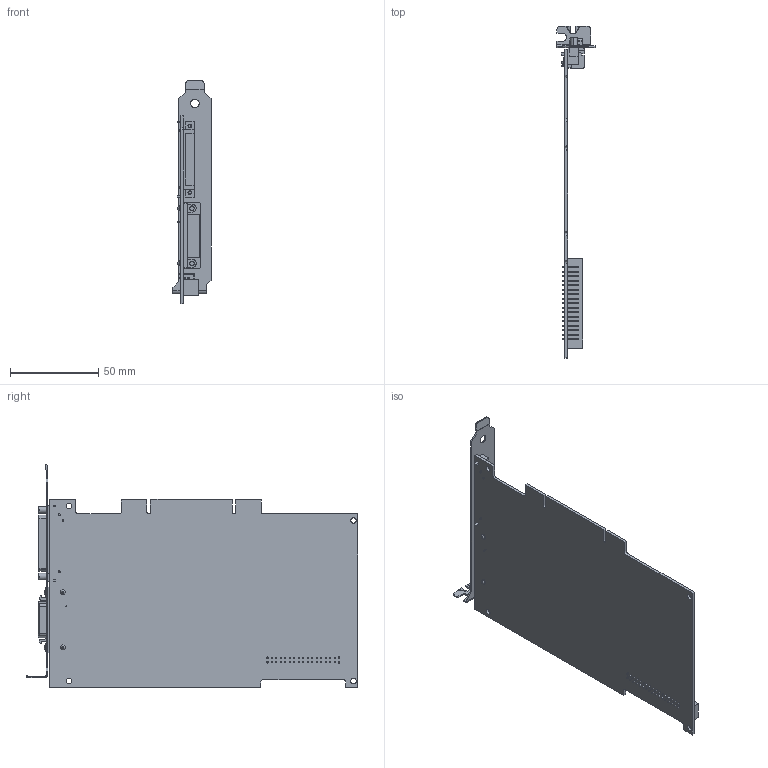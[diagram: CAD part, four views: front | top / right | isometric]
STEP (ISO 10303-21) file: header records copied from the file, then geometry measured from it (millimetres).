
FILE_DESCRIPTION((''),'2;1');
FILE_NAME('CU_PCI-1428','2011-08-16T',('dkendric'),(''),'PRO/ENGINEER BY PARAMETRIC TECHNOLOGY CORPORATION, 2010230','PRO/ENGINEER BY PARAMETRIC TECHNOLOGY CORPORATION, 2010230','');
FILE_SCHEMA(('CONFIG_CONTROL_DESIGN'));
Length unit declared in the file: inch
Products named in the file (1): CU_PCI-1428
Bounding box: 21.59 x 187.77 x 126.21 mm (x, y, z)
Volume: 37207.4 mm3; surface area: 46644.4 mm2
Topology: 1 solids, 1 shells, 1004 faces, 2754 edges, 1810 vertices
Faces by surface type: plane 781, cylinder 199, torus 8, cone 8, bspline 4, sphere 4
Entity records: 31971 total; most frequent: CARTESIAN_POINT 5775, ORIENTED_EDGE 5508, DIRECTION 5200, EDGE_CURVE 2754, VECTOR 2284, LINE 2284, VERTEX_POINT 1810, AXIS2_PLACEMENT_3D 1458
